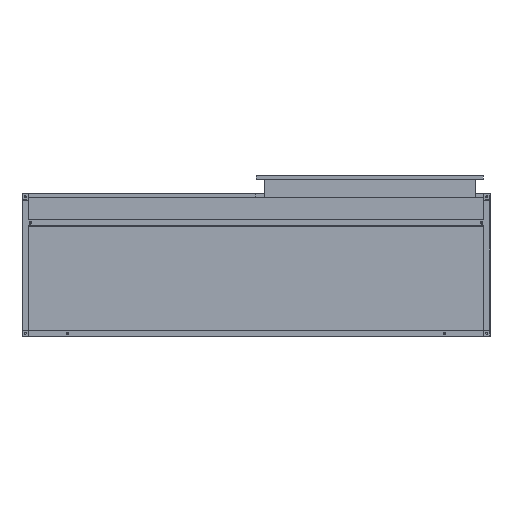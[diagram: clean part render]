
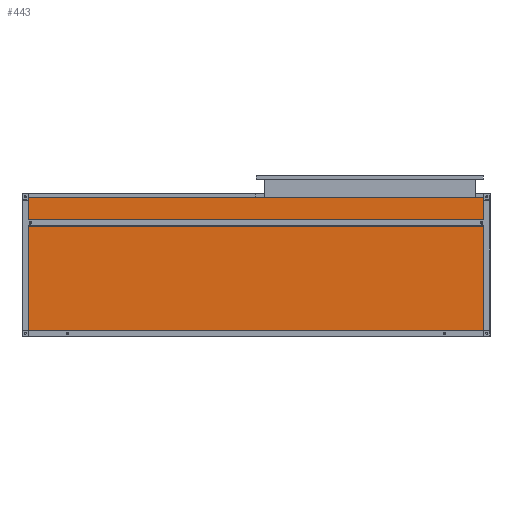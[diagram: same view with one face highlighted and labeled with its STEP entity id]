
A CAD part, front view. The second image highlights one B-rep face of the part: STEP entity #443.
In plain terms, the highlighted planar face has unit normal (0, -1, 0).
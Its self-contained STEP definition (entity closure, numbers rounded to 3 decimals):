
#57 = CARTESIAN_POINT ( 'NONE',  ( 875., -250., 535. ) ) ;
#148 = DIRECTION ( 'NONE',  ( 1., 0., 0. ) ) ;
#318 = VERTEX_POINT ( 'NONE', #863 ) ;
#443 = ADVANCED_FACE ( 'NONE', ( #6430 ), #6393, .F. ) ;
#863 = CARTESIAN_POINT ( 'NONE',  ( 875., -250., 0. ) ) ;
#1332 = EDGE_CURVE ( 'NONE', #318, #5681, #3268, .T. ) ;
#1611 = DIRECTION ( 'NONE',  ( 0., 0., 1. ) ) ;
#1744 = CARTESIAN_POINT ( 'NONE',  ( -875., -250., 0. ) ) ;
#1783 = LINE ( 'NONE', #1744, #3083 ) ;
#1992 = VECTOR ( 'NONE', #148, 1000. ) ;
#2009 = EDGE_CURVE ( 'NONE', #4964, #318, #7662, .T. ) ;
#2112 = CARTESIAN_POINT ( 'NONE',  ( 0., -250., 0. ) ) ;
#2649 = LINE ( 'NONE', #3783, #1992 ) ;
#2700 = AXIS2_PLACEMENT_3D ( 'NONE', #2112, #4524, #1611 ) ;
#2835 = VECTOR ( 'NONE', #5696, 1000. ) ;
#2859 = ORIENTED_EDGE ( 'NONE', *, *, #3602, .F. ) ;
#3083 = VECTOR ( 'NONE', #7685, 1000. ) ;
#3209 = VECTOR ( 'NONE', #5339, 1000. ) ;
#3268 = LINE ( 'NONE', #7424, #2835 ) ;
#3348 = ORIENTED_EDGE ( 'NONE', *, *, #4747, .F. ) ;
#3602 = EDGE_CURVE ( 'NONE', #5681, #4559, #1783, .T. ) ;
#3783 = CARTESIAN_POINT ( 'NONE',  ( -875., -250., 535. ) ) ;
#4524 = DIRECTION ( 'NONE',  ( 0., 1., 0. ) ) ;
#4559 = VERTEX_POINT ( 'NONE', #5852 ) ;
#4747 = EDGE_CURVE ( 'NONE', #4559, #4964, #2649, .T. ) ;
#4926 = ORIENTED_EDGE ( 'NONE', *, *, #2009, .F. ) ;
#4964 = VERTEX_POINT ( 'NONE', #57 ) ;
#5339 = DIRECTION ( 'NONE',  ( 0., 0., -1. ) ) ;
#5681 = VERTEX_POINT ( 'NONE', #6205 ) ;
#5696 = DIRECTION ( 'NONE',  ( -1., 0., 0. ) ) ;
#5852 = CARTESIAN_POINT ( 'NONE',  ( -875., -250., 535. ) ) ;
#5889 = ORIENTED_EDGE ( 'NONE', *, *, #1332, .F. ) ;
#6183 = EDGE_LOOP ( 'NONE', ( #4926, #3348, #2859, #5889 ) ) ;
#6205 = CARTESIAN_POINT ( 'NONE',  ( -875., -250., 0. ) ) ;
#6393 = PLANE ( 'NONE',  #2700 ) ;
#6428 = CARTESIAN_POINT ( 'NONE',  ( 875., -250., 0. ) ) ;
#6430 = FACE_OUTER_BOUND ( 'NONE', #6183, .T. ) ;
#7424 = CARTESIAN_POINT ( 'NONE',  ( -875., -250., 0. ) ) ;
#7662 = LINE ( 'NONE', #6428, #3209 ) ;
#7685 = DIRECTION ( 'NONE',  ( 0., 0., 1. ) ) ;
